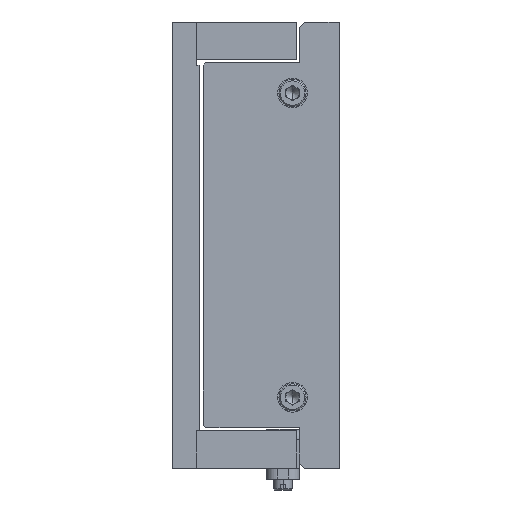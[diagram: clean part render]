
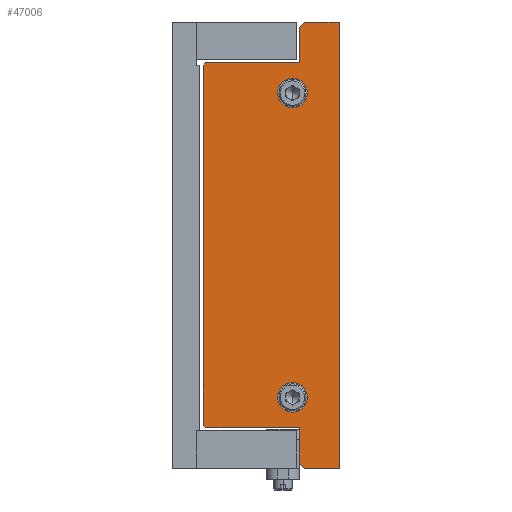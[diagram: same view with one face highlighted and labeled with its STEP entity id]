
A CAD part, left-side view. The second image highlights one B-rep face of the part: STEP entity #47006.
In plain terms, the highlighted planar face has unit normal (-1, 0, 0).
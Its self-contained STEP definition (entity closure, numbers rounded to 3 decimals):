
#219 = ORIENTED_EDGE ( 'NONE', *, *, #23937, .T. ) ;
#260 = CARTESIAN_POINT ( 'NONE',  ( -240., 0., 0. ) ) ;
#391 = CARTESIAN_POINT ( 'NONE',  ( -240., 17.5, 56.25 ) ) ;
#785 = CARTESIAN_POINT ( 'NONE',  ( -240., 17.5, -50.75 ) ) ;
#967 = CARTESIAN_POINT ( 'NONE',  ( -240., 49.5, 67.5 ) ) ;
#1353 = CARTESIAN_POINT ( 'NONE',  ( -240., 17.5, 50.75 ) ) ;
#1863 = DIRECTION ( 'NONE',  ( 0., 0.707, -0.707 ) ) ;
#2030 = EDGE_CURVE ( 'NONE', #24916, #48994, #8307, .T. ) ;
#2256 = AXIS2_PLACEMENT_3D ( 'NONE', #48304, #49040, #48667 ) ;
#2958 = EDGE_CURVE ( 'NONE', #36317, #5411, #37386, .T. ) ;
#3299 = VECTOR ( 'NONE', #21198, 1000. ) ;
#3829 = DIRECTION ( 'NONE',  ( -1., 0., 0. ) ) ;
#4445 = CARTESIAN_POINT ( 'NONE',  ( -240., 49.5, 67.5 ) ) ;
#4681 = ORIENTED_EDGE ( 'NONE', *, *, #13677, .T. ) ;
#5148 = ORIENTED_EDGE ( 'NONE', *, *, #44059, .F. ) ;
#5238 = VECTOR ( 'NONE', #45401, 1000. ) ;
#5411 = VERTEX_POINT ( 'NONE', #7720 ) ;
#5521 = DIRECTION ( 'NONE',  ( 0., 1., 0. ) ) ;
#6178 = VERTEX_POINT ( 'NONE', #7410 ) ;
#6185 = CARTESIAN_POINT ( 'NONE',  ( -240., 50.5, 66.5 ) ) ;
#7091 = VERTEX_POINT ( 'NONE', #1353 ) ;
#7410 = CARTESIAN_POINT ( 'NONE',  ( -240., 17.5, 61.75 ) ) ;
#7720 = CARTESIAN_POINT ( 'NONE',  ( -240., 15., 80.55 ) ) ;
#8307 = LINE ( 'NONE', #31366, #26999 ) ;
#8520 = DIRECTION ( 'NONE',  ( 0., -1., 0. ) ) ;
#8828 = DIRECTION ( 'NONE',  ( 1., 0., 0. ) ) ;
#9485 = FACE_BOUND ( 'NONE', #38296, .T. ) ;
#9510 = DIRECTION ( 'NONE',  ( 0., -0.707, -0.707 ) ) ;
#9766 = AXIS2_PLACEMENT_3D ( 'NONE', #14378, #9926, #39764 ) ;
#9926 = DIRECTION ( 'NONE',  ( -1., 0., 0. ) ) ;
#10182 = CARTESIAN_POINT ( 'NONE',  ( -240., 15., -67.5 ) ) ;
#10441 = CARTESIAN_POINT ( 'NONE',  ( -240., 13.05, 82.5 ) ) ;
#10515 = DIRECTION ( 'NONE',  ( 0., 0., -1. ) ) ;
#11721 = ORIENTED_EDGE ( 'NONE', *, *, #35640, .F. ) ;
#12308 = CARTESIAN_POINT ( 'NONE',  ( -240., 15., -67.5 ) ) ;
#12680 = DIRECTION ( 'NONE',  ( -1., 0., 0. ) ) ;
#13610 = LINE ( 'NONE', #53398, #22953 ) ;
#13677 = EDGE_CURVE ( 'NONE', #38502, #21473, #42449, .T. ) ;
#14231 = EDGE_CURVE ( 'NONE', #21473, #24916, #55133, .T. ) ;
#14378 = CARTESIAN_POINT ( 'NONE',  ( -240., 17.5, 56.25 ) ) ;
#14504 = CARTESIAN_POINT ( 'NONE',  ( -240., 49.5, -67.5 ) ) ;
#14604 = ORIENTED_EDGE ( 'NONE', *, *, #2030, .T. ) ;
#14622 = CARTESIAN_POINT ( 'NONE',  ( -240., 15., 80.55 ) ) ;
#14624 = CIRCLE ( 'NONE', #27461, 5.5 ) ;
#14992 = DIRECTION ( 'NONE',  ( 0., -0.707, -0.707 ) ) ;
#16065 = ORIENTED_EDGE ( 'NONE', *, *, #18920, .T. ) ;
#16124 = VECTOR ( 'NONE', #5521, 1000. ) ;
#16378 = VERTEX_POINT ( 'NONE', #29850 ) ;
#17665 = CIRCLE ( 'NONE', #22777, 5.5 ) ;
#17853 = EDGE_CURVE ( 'NONE', #32958, #54221, #40285, .T. ) ;
#18697 = EDGE_LOOP ( 'NONE', ( #55440, #21489, #37498, #16065, #219, #20657, #52757, #4681, #53641, #14604, #37535, #32118 ) ) ;
#18920 = EDGE_CURVE ( 'NONE', #5411, #45259, #44134, .T. ) ;
#19528 = VECTOR ( 'NONE', #14992, 1000. ) ;
#19584 = EDGE_CURVE ( 'NONE', #34811, #40798, #24782, .T. ) ;
#20657 = ORIENTED_EDGE ( 'NONE', *, *, #19584, .T. ) ;
#20683 = VECTOR ( 'NONE', #23928, 1000. ) ;
#21198 = DIRECTION ( 'NONE',  ( 0., 1., 0. ) ) ;
#21473 = VERTEX_POINT ( 'NONE', #54730 ) ;
#21489 = ORIENTED_EDGE ( 'NONE', *, *, #35746, .T. ) ;
#22179 = EDGE_CURVE ( 'NONE', #7091, #6178, #43766, .T. ) ;
#22777 = AXIS2_PLACEMENT_3D ( 'NONE', #34079, #3829, #33901 ) ;
#22785 = ORIENTED_EDGE ( 'NONE', *, *, #17853, .F. ) ;
#22953 = VECTOR ( 'NONE', #40598, 1000. ) ;
#23001 = CARTESIAN_POINT ( 'NONE',  ( -240., 13.05, -82.5 ) ) ;
#23928 = DIRECTION ( 'NONE',  ( 0., 0.707, -0.707 ) ) ;
#23937 = EDGE_CURVE ( 'NONE', #45259, #34811, #26014, .T. ) ;
#24782 = LINE ( 'NONE', #6185, #54314 ) ;
#24801 = EDGE_CURVE ( 'NONE', #46119, #51625, #42622, .T. ) ;
#24916 = VERTEX_POINT ( 'NONE', #10182 ) ;
#26014 = LINE ( 'NONE', #4445, #3299 ) ;
#26999 = VECTOR ( 'NONE', #52751, 1000. ) ;
#27461 = AXIS2_PLACEMENT_3D ( 'NONE', #391, #12680, #30056 ) ;
#27764 = CARTESIAN_POINT ( 'NONE',  ( -240., 15., -80.55 ) ) ;
#28737 = CARTESIAN_POINT ( 'NONE',  ( -240., 50.5, -66.5 ) ) ;
#29633 = VECTOR ( 'NONE', #33390, 1000. ) ;
#29850 = CARTESIAN_POINT ( 'NONE',  ( -240., 0.25, 82.5 ) ) ;
#29890 = EDGE_CURVE ( 'NONE', #51625, #16378, #13610, .T. ) ;
#30056 = DIRECTION ( 'NONE',  ( 0., 0., 1. ) ) ;
#30294 = PLANE ( 'NONE',  #54234 ) ;
#30844 = FACE_OUTER_BOUND ( 'NONE', #18697, .T. ) ;
#31203 = VECTOR ( 'NONE', #8520, 1000. ) ;
#31366 = CARTESIAN_POINT ( 'NONE',  ( -240., 15., -80.55 ) ) ;
#32007 = CARTESIAN_POINT ( 'NONE',  ( -240., 17.5, -61.75 ) ) ;
#32118 = ORIENTED_EDGE ( 'NONE', *, *, #24801, .T. ) ;
#32958 = VERTEX_POINT ( 'NONE', #785 ) ;
#33390 = DIRECTION ( 'NONE',  ( 0., -1., 0. ) ) ;
#33901 = DIRECTION ( 'NONE',  ( 0., 0., 1. ) ) ;
#34079 = CARTESIAN_POINT ( 'NONE',  ( -240., 17.5, -56.25 ) ) ;
#34589 = DIRECTION ( 'NONE',  ( 0., 0., -1. ) ) ;
#34811 = VERTEX_POINT ( 'NONE', #967 ) ;
#35640 = EDGE_CURVE ( 'NONE', #54221, #32958, #17665, .T. ) ;
#35746 = EDGE_CURVE ( 'NONE', #16378, #36317, #50261, .T. ) ;
#36317 = VERTEX_POINT ( 'NONE', #10441 ) ;
#37267 = LINE ( 'NONE', #28737, #5238 ) ;
#37386 = LINE ( 'NONE', #14622, #20683 ) ;
#37498 = ORIENTED_EDGE ( 'NONE', *, *, #2958, .T. ) ;
#37535 = ORIENTED_EDGE ( 'NONE', *, *, #46757, .T. ) ;
#37998 = CARTESIAN_POINT ( 'NONE',  ( -240., 0.25, -82.5 ) ) ;
#38296 = EDGE_LOOP ( 'NONE', ( #5148, #53639 ) ) ;
#38502 = VERTEX_POINT ( 'NONE', #39573 ) ;
#38862 = FACE_BOUND ( 'NONE', #51409, .T. ) ;
#39453 = CARTESIAN_POINT ( 'NONE',  ( -240., 50.5, 66.5 ) ) ;
#39573 = CARTESIAN_POINT ( 'NONE',  ( -240., 50.5, -66.5 ) ) ;
#39718 = EDGE_CURVE ( 'NONE', #40798, #38502, #37267, .T. ) ;
#39764 = DIRECTION ( 'NONE',  ( 0., 0., 1. ) ) ;
#40285 = CIRCLE ( 'NONE', #2256, 5.5 ) ;
#40598 = DIRECTION ( 'NONE',  ( 0., 0., 1. ) ) ;
#40798 = VERTEX_POINT ( 'NONE', #39453 ) ;
#41046 = CARTESIAN_POINT ( 'NONE',  ( -240., 15., 67.5 ) ) ;
#41108 = CARTESIAN_POINT ( 'NONE',  ( -240., 13.05, -82.5 ) ) ;
#42449 = LINE ( 'NONE', #14504, #49153 ) ;
#42622 = LINE ( 'NONE', #37998, #31203 ) ;
#43766 = CIRCLE ( 'NONE', #9766, 5.5 ) ;
#44059 = EDGE_CURVE ( 'NONE', #6178, #7091, #14624, .T. ) ;
#44134 = LINE ( 'NONE', #48660, #47466 ) ;
#45259 = VERTEX_POINT ( 'NONE', #41046 ) ;
#45401 = DIRECTION ( 'NONE',  ( 0., 0., -1. ) ) ;
#46119 = VERTEX_POINT ( 'NONE', #41108 ) ;
#46757 = EDGE_CURVE ( 'NONE', #48994, #46119, #46962, .T. ) ;
#46962 = LINE ( 'NONE', #23001, #19528 ) ;
#47006 = ADVANCED_FACE ( 'NONE', ( #38862, #9485, #30844 ), #30294, .F. ) ;
#47466 = VECTOR ( 'NONE', #10515, 1000. ) ;
#47729 = CARTESIAN_POINT ( 'NONE',  ( -240., 13.05, 82.5 ) ) ;
#48304 = CARTESIAN_POINT ( 'NONE',  ( -240., 17.5, -56.25 ) ) ;
#48660 = CARTESIAN_POINT ( 'NONE',  ( -240., 15., 67.5 ) ) ;
#48667 = DIRECTION ( 'NONE',  ( 0., 0., 1. ) ) ;
#48994 = VERTEX_POINT ( 'NONE', #27764 ) ;
#49040 = DIRECTION ( 'NONE',  ( -1., 0., 0. ) ) ;
#49153 = VECTOR ( 'NONE', #9510, 1000. ) ;
#50261 = LINE ( 'NONE', #47729, #16124 ) ;
#50314 = CARTESIAN_POINT ( 'NONE',  ( -240., 0.25, -82.5 ) ) ;
#51409 = EDGE_LOOP ( 'NONE', ( #22785, #11721 ) ) ;
#51625 = VERTEX_POINT ( 'NONE', #50314 ) ;
#52751 = DIRECTION ( 'NONE',  ( 0., 0., -1. ) ) ;
#52757 = ORIENTED_EDGE ( 'NONE', *, *, #39718, .T. ) ;
#53398 = CARTESIAN_POINT ( 'NONE',  ( -240., 0.25, 82.5 ) ) ;
#53639 = ORIENTED_EDGE ( 'NONE', *, *, #22179, .F. ) ;
#53641 = ORIENTED_EDGE ( 'NONE', *, *, #14231, .T. ) ;
#54221 = VERTEX_POINT ( 'NONE', #32007 ) ;
#54234 = AXIS2_PLACEMENT_3D ( 'NONE', #260, #8828, #34589 ) ;
#54314 = VECTOR ( 'NONE', #1863, 1000. ) ;
#54730 = CARTESIAN_POINT ( 'NONE',  ( -240., 49.5, -67.5 ) ) ;
#55133 = LINE ( 'NONE', #12308, #29633 ) ;
#55440 = ORIENTED_EDGE ( 'NONE', *, *, #29890, .T. ) ;
